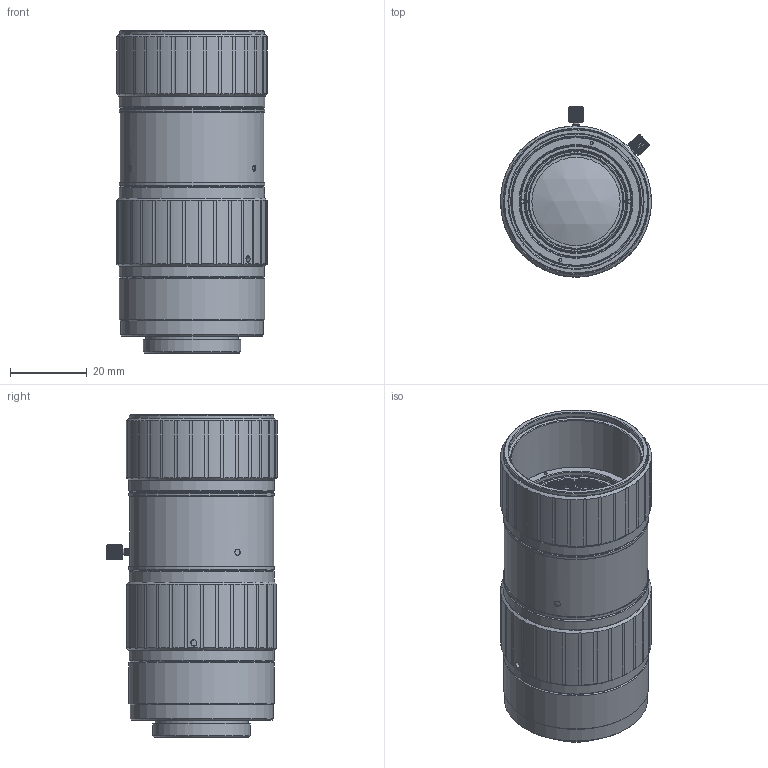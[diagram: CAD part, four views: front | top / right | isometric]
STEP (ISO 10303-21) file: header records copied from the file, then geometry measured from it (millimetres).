
FILE_DESCRIPTION (( 'STEP AP203' ), '1' );
FILE_NAME ('QM994370120_3D.STEP', '2024-12-13T07:37:13', ( '' ), ( '' ), 'SwSTEP 2.0', 'SolidWorks 2022', '' );
FILE_SCHEMA (( 'CONFIG_CONTROL_DESIGN' ));
Length unit declared in the file: millimetre
Products named in the file (1): QM994370120_3D
Bounding box: 39.2 x 44.2 x 83.9 mm (x, y, z)
Volume: 71879.1 mm3; surface area: 17487 mm2
Topology: 5 solids, 7 shells, 890 faces, 2455 edges, 1619 vertices
Faces by surface type: plane 438, cylinder 319, cone 113, bspline 15, torus 3, sphere 2
Full cylindrical faces by diameter (mm): 0.8 x2, 1 x1, 1.5 x2, 1.6 x10, 1.8 x3, 2.5 x3, 2.9 x3, 19.8 x1, 20.4 x1, 21.998 x1, 22.5 x1, 22.55 x1, 22.6 x1, 22.7 x1, 24.2 x1, 24.7 x1, 25.4 x1, 26.7 x1, 29.2 x1, 30.7 x1, 33 x1, 33.6 x2, 35 x1, 35.7 x2, 36 x1, 36.818 x1, 37.2 x1, 37.4 x1, 37.6 x1, 37.798 x1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
Entity records: 36839 total; most frequent: CARTESIAN_POINT 16504, ORIENTED_EDGE 4528, DIRECTION 3605, EDGE_CURVE 2264, VERTEX_POINT 1566, AXIS2_PLACEMENT_3D 1474, EDGE_LOOP 1066, B_SPLINE_CURVE_WITH_KNOTS 993
